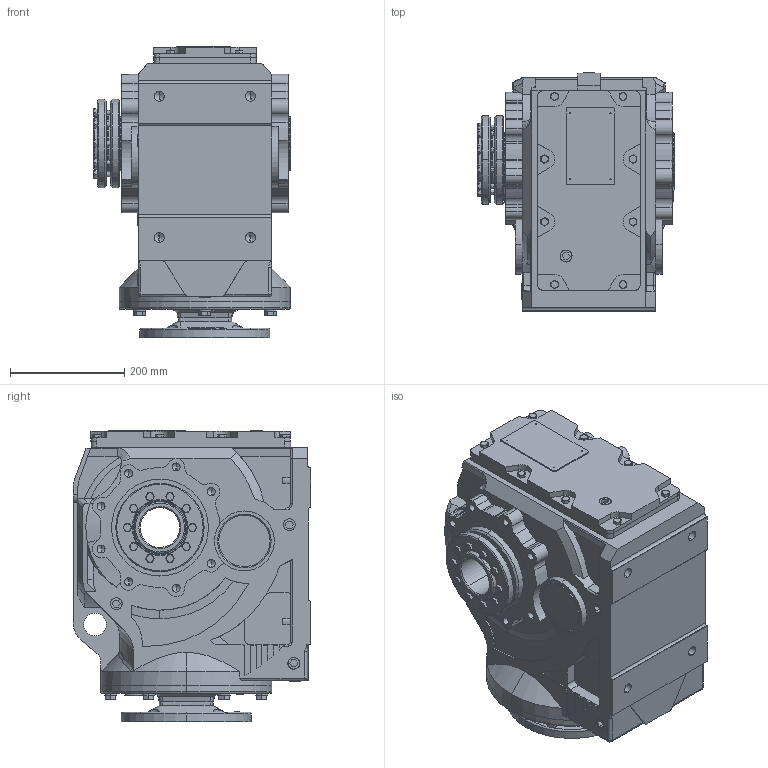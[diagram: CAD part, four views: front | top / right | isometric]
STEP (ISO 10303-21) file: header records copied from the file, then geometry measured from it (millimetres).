
FILE_DESCRIPTION (( 'STEP AP203' ), '1' );
FILE_NAME ('KAN97-182TC-B-POWER LOCK.STEP', '2020-11-25T03:11:25', ( 'Microsoft' ), ( 'Microsoft' ), 'SwSTEP 2.0', 'SolidWorks 2012', '' );
FILE_SCHEMA (( 'CONFIG_CONTROL_DESIGN' ));
Length unit declared in the file: millimetre
Products named in the file (1): KAN97-182TC-B-POWER LOCK
Bounding box: 345 x 417.5 x 512 mm (x, y, z)
Volume: 41684713.4 mm3; surface area: 1344428.9 mm2
Topology: 2 solids, 10 shells, 1770 faces, 4454 edges, 2798 vertices
Faces by surface type: plane 701, cylinder 541, cone 351, bspline 144, torus 30, sphere 3
Entity records: 64357 total; most frequent: CARTESIAN_POINT 22646, ORIENTED_EDGE 8758, DIRECTION 8471, EDGE_CURVE 4379, AXIS2_PLACEMENT_3D 3122, VERTEX_POINT 2798, LINE 2227, VECTOR 2227
